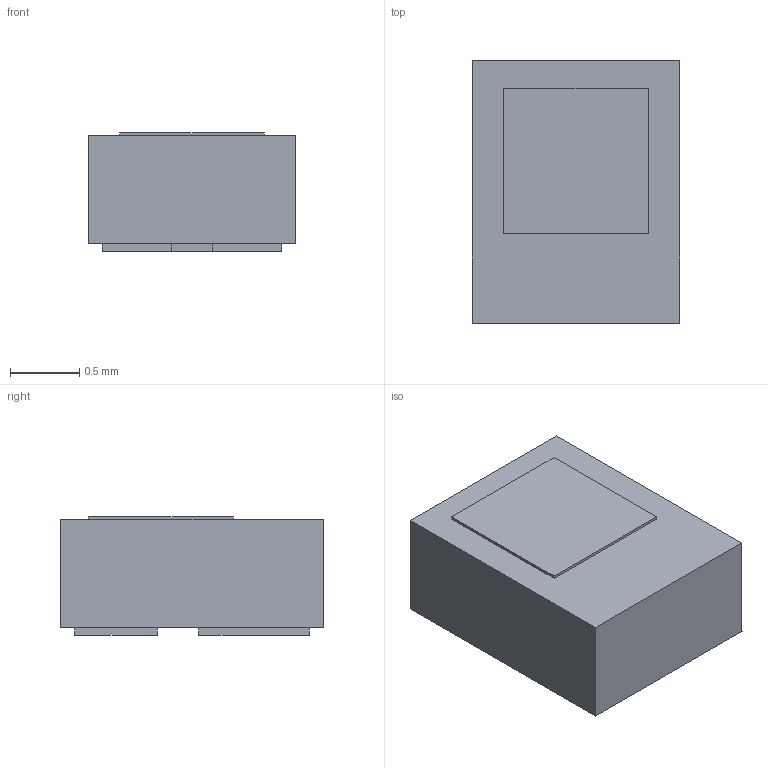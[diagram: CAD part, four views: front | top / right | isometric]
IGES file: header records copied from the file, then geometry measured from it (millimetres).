
Start section: 3D InterOp IGES (Version 20 0 3), Spatial Corp. Copyright (c) 1999-2007.
Global section: file name: JKZY-TZHS_220725.igs; native system: Spatial Corp.; preprocessor: 3D InterOp ACIS/IGES; author: Noname; organization: Noname; date: 20250722.105513; units: millimetre
Bounding box: 1.5 x 1.9 x 0.86 mm (x, y, z)
Surface area: 11.6 mm2 (no closed solid volume)
Topology: 0 solids, 0 shells, 26 faces, 120 edges, 120 vertices
Faces by surface type: extrusion 26
